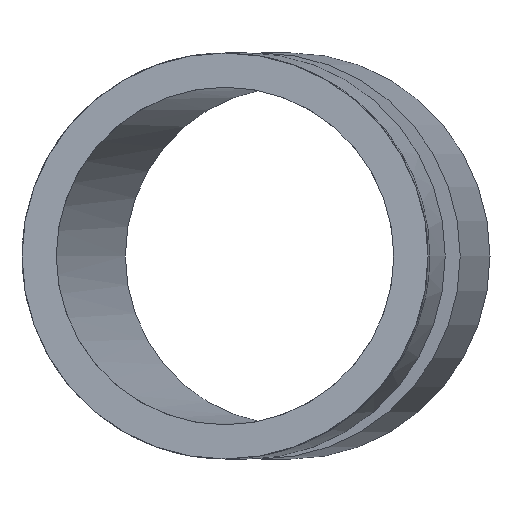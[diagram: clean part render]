
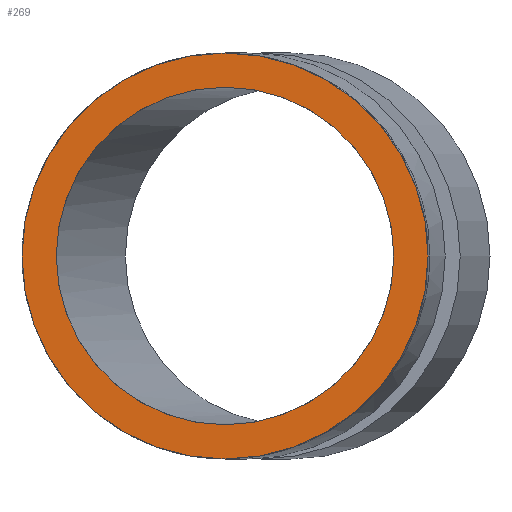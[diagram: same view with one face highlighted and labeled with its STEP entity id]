
A CAD part, front view. The second image highlights one B-rep face of the part: STEP entity #269.
In plain terms, the highlighted planar face has unit normal (0, -1, 0).
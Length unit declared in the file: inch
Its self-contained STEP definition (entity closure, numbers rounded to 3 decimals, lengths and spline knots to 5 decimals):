
#19=FACE_BOUND('',#103,.T.);
#25=PLANE('',#328);
#56=CIRCLE('',#325,0.69);
#57=CIRCLE('',#327,0.83);
#81=FACE_OUTER_BOUND('',#102,.T.);
#102=EDGE_LOOP('',(#233));
#103=EDGE_LOOP('',(#234));
#134=VERTEX_POINT('',#560);
#135=VERTEX_POINT('',#564);
#165=EDGE_CURVE('',#134,#134,#56,.T.);
#168=EDGE_CURVE('',#135,#135,#57,.T.);
#233=ORIENTED_EDGE('',*,*,#168,.T.);
#234=ORIENTED_EDGE('',*,*,#165,.T.);
#269=ADVANCED_FACE('',(#81,#19),#25,.F.);
#325=AXIS2_PLACEMENT_3D('',#561,#407,#408);
#327=AXIS2_PLACEMENT_3D('',#566,#413,#414);
#328=AXIS2_PLACEMENT_3D('',#567,#415,#416);
#407=DIRECTION('center_axis',(0.,1.,0.));
#408=DIRECTION('ref_axis',(1.,0.,0.));
#413=DIRECTION('center_axis',(0.,-1.,0.));
#414=DIRECTION('ref_axis',(1.,0.,0.));
#415=DIRECTION('center_axis',(0.,1.,0.));
#416=DIRECTION('ref_axis',(0.,0.,1.));
#560=CARTESIAN_POINT('',(-0.69,0.,0.));
#561=CARTESIAN_POINT('Origin',(0.,0.,0.));
#564=CARTESIAN_POINT('',(-0.83,0.,0.));
#566=CARTESIAN_POINT('Origin',(0.,0.,0.));
#567=CARTESIAN_POINT('Origin',(0.,0.,0.));
